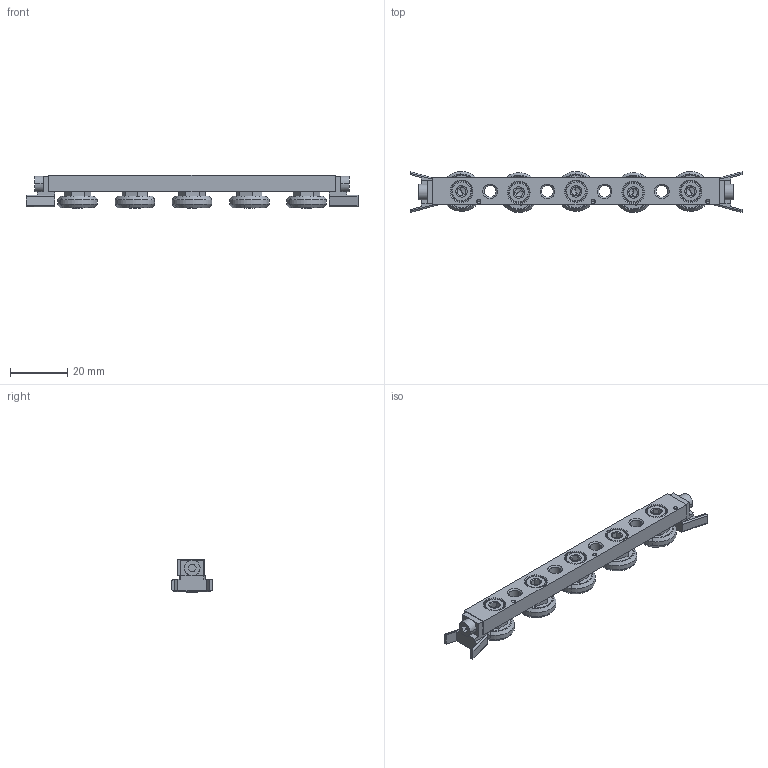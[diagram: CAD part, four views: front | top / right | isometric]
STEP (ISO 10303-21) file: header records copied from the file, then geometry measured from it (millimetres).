
FILE_DESCRIPTION (( 'STEP AP203' ), '1' );
FILE_NAME ('L1918.CSW18-100-2ZU.step', '2019-06-29T22:05:27', ( '' ), ( '' ), 'SwSTEP 2.0', 'SolidWorks 2017', '' );
FILE_SCHEMA (( 'CONFIG_CONTROL_DESIGN' ));
Length unit declared in the file: millimetre
Products named in the file (6): Part1_L1918.CSW18-100-2ZU; L1918.CSW18-100-2ZU; Part7; Part8; Part3; Part2
Assembly tree (15 placements, depth 2):
  L1918.CSW18-100-2ZU
    Part1_L1918.CSW18-100-2ZU
    Part8  x7
    Part2  x3
    Part3  x2
    Part7  x2
Bounding box: 116 x 14.33 x 11.54 mm (x, y, z)
Volume: 8806.9 mm3; surface area: 8816.8 mm2
Topology: 15 solids, 15 shells, 491 faces, 1134 edges, 694 vertices
Faces by surface type: plane 237, cone 136, cylinder 94, torus 24
Entity records: 7003 total; most frequent: CARTESIAN_POINT 1136, DIRECTION 1118, ORIENTED_EDGE 960, EDGE_CURVE 480, AXIS2_PLACEMENT_3D 429, VERTEX_POINT 306, LINE 260, VECTOR 260
